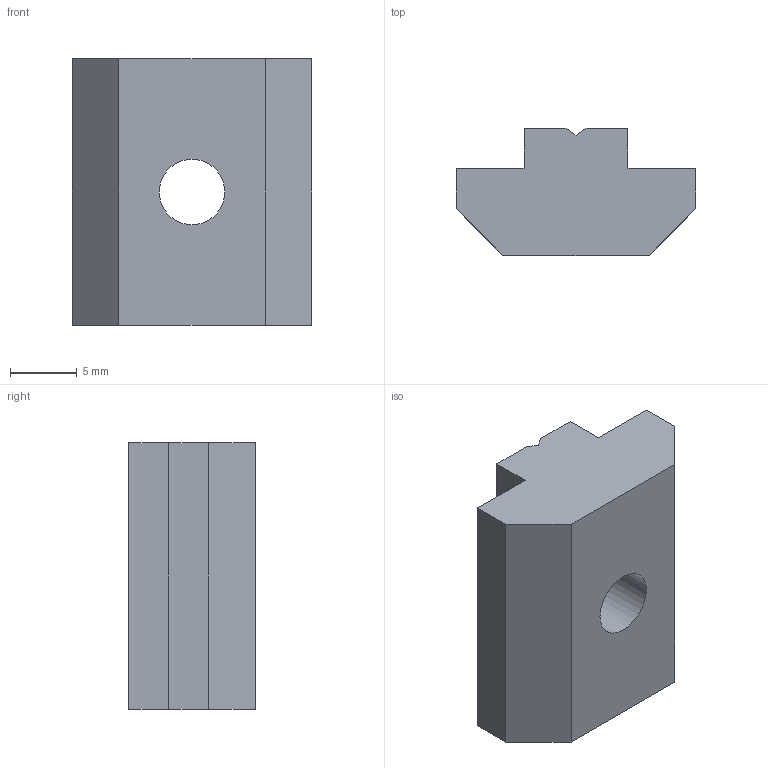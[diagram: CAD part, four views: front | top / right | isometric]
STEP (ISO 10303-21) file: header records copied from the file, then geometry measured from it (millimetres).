
FILE_DESCRIPTION((''),'2;1');
FILE_NAME('E:\catalogue and flyer\Profile catalogue 2015\Accessories JE info\Accessories-JE step file 31MAr16\JE-SB6-8_4040.stp','2016-04-07T11:33:18',('h029'),(''),'Autodesk Inventor 11','Autodesk Inventor 11','');
FILE_SCHEMA(('AUTOMOTIVE_DESIGN { 1 0 10303 214 1 1 1 1 }'));
Length unit declared in the file: millimetre
Products named in the file (1): JE-SB6-8
Bounding box: 18 x 9.5 x 20 mm (x, y, z)
Volume: 2375.1 mm3; surface area: 1382.2 mm2
Topology: 1 solids, 1 shells, 20 faces, 53 edges, 34 vertices
Faces by surface type: plane 17, cone 2, bspline 1
Entity records: 640 total; most frequent: CARTESIAN_POINT 122, ORIENTED_EDGE 102, DIRECTION 100, EDGE_CURVE 51, VECTOR 42, LINE 42, VERTEX_POINT 33, AXIS2_PLACEMENT_3D 29
